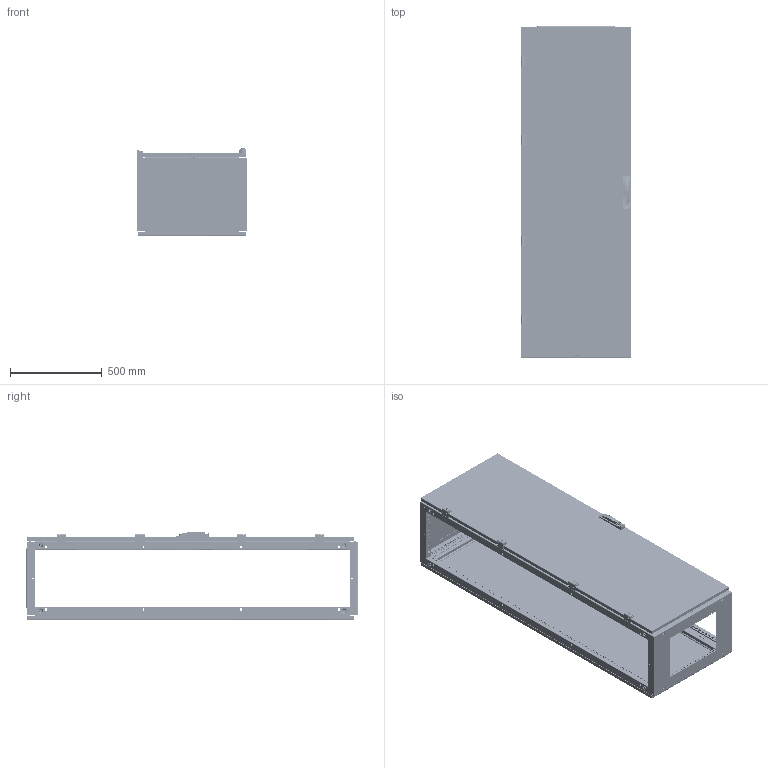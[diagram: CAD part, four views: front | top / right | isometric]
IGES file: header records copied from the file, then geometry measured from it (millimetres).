
Start section: SolidWorks IGES file using analytic representation for surfaces
Global section: file name: U:\14_RD\05_Technical_office\04_Office\Hrdinova\3D modely - IGES\Distri\QA180604.IGS; native system: SolidWorks 2011; preprocessor: SolidWorks 2011; author: adhrja3; date: 170612.071609; units: millimetre
Bounding box: 600 x 1804.5 x 476 mm (x, y, z)
Surface area: 9473328.6 mm2 (no closed solid volume)
Topology: 0 solids, 0 shells, 6036 faces, 100476 edges, 100308 vertices
Faces by surface type: bspline 3412, revolution 2624
